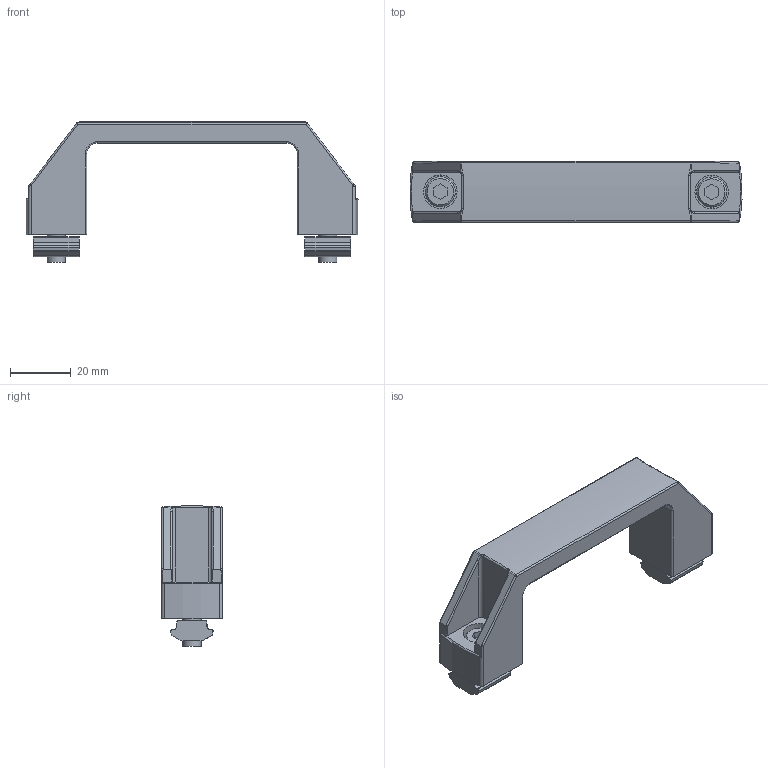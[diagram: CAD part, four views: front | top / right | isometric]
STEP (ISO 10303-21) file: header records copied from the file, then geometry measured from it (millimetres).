
FILE_DESCRIPTION(('STEP AP214'),'1');
FILE_NAME('HCP1.stp','2018-07-23T09:28:59',(' '),(' '),'Spatial InterOp 3D',' ',' ');
FILE_SCHEMA(('automotive_design'));
Length unit declared in the file: millimetre
Products named in the file (4): HCP1
Assembly tree (5 placements, depth 2):
  HCP1
    HCP1
    (unnamed)  x2
    (unnamed)  x2
Bounding box: 108.87 x 20 x 45.99 mm (x, y, z)
Volume: 27042.5 mm3; surface area: 13896 mm2
Topology: 5 solids, 5 shells, 176 faces, 438 edges, 272 vertices
Faces by surface type: plane 71, cylinder 63, bspline 20, torus 12, sphere 8, cone 2
Full cylindrical faces by diameter (mm): 6 x4, 6.6 x2, 9.87 x2, 11 x2
Entity records: 6081 total; most frequent: CARTESIAN_POINT 1947, DIRECTION 710, ORIENTED_EDGE 656, EDGE_CURVE 328, AXIS2_PLACEMENT_3D 283, VERTEX_POINT 206, EDGE_LOOP 156, FACE_OUTER_BOUND 146
